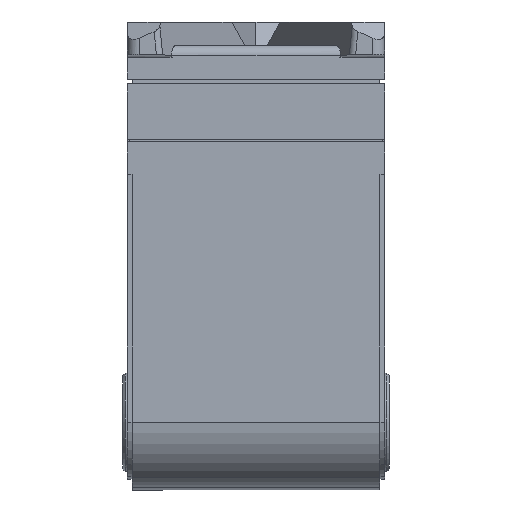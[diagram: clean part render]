
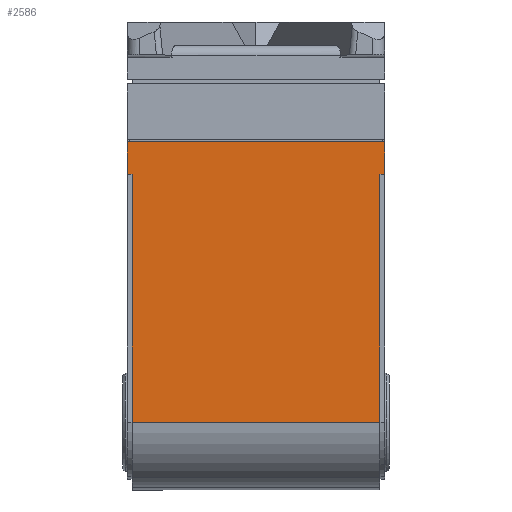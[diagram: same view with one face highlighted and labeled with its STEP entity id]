
A CAD part, front view. The second image highlights one B-rep face of the part: STEP entity #2586.
In plain terms, the highlighted planar face has unit normal (0, -1, 0).
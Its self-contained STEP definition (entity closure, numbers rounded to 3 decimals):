
#2586=ADVANCED_FACE('',(#3059),#2853,.F.);
#2853=PLANE('',#7668);
#3059=FACE_OUTER_BOUND('',#3341,.T.);
#3341=EDGE_LOOP('',(#4130,#4131,#4132,#4133,#4134,#4135,#4136,#4137));
#4130=ORIENTED_EDGE('',*,*,#5742,.T.);
#4131=ORIENTED_EDGE('',*,*,#5970,.F.);
#4132=ORIENTED_EDGE('',*,*,#5963,.T.);
#4133=ORIENTED_EDGE('',*,*,#5981,.T.);
#4134=ORIENTED_EDGE('',*,*,#5992,.F.);
#4135=ORIENTED_EDGE('',*,*,#5999,.F.);
#4136=ORIENTED_EDGE('',*,*,#6000,.F.);
#4137=ORIENTED_EDGE('',*,*,#6001,.F.);
#5212=VERTEX_POINT('',#9368);
#5213=VERTEX_POINT('',#9370);
#5367=VERTEX_POINT('',#10067);
#5368=VERTEX_POINT('',#10069);
#5380=VERTEX_POINT('',#10103);
#5387=VERTEX_POINT('',#10127);
#5389=VERTEX_POINT('',#10140);
#5390=VERTEX_POINT('',#10142);
#5742=EDGE_CURVE('',#5213,#5212,#6514,.T.);
#5963=EDGE_CURVE('',#5367,#5368,#6659,.T.);
#5970=EDGE_CURVE('',#5367,#5212,#6665,.T.);
#5981=EDGE_CURVE('',#5368,#5380,#6671,.T.);
#5992=EDGE_CURVE('',#5387,#5380,#6680,.T.);
#5999=EDGE_CURVE('',#5389,#5387,#6684,.T.);
#6000=EDGE_CURVE('',#5390,#5389,#6685,.T.);
#6001=EDGE_CURVE('',#5213,#5390,#6686,.T.);
#6514=LINE('',#9369,#7032);
#6659=LINE('',#10070,#7205);
#6665=LINE('',#10083,#7211);
#6671=LINE('',#10104,#7217);
#6680=LINE('',#10126,#7226);
#6684=LINE('',#10139,#7230);
#6685=LINE('',#10141,#7231);
#6686=LINE('',#10143,#7232);
#7032=VECTOR('',#8006,1.);
#7205=VECTOR('',#8307,1.);
#7211=VECTOR('',#8321,1.);
#7217=VECTOR('',#8339,1.);
#7226=VECTOR('',#8362,1.);
#7230=VECTOR('',#8380,1.);
#7231=VECTOR('',#8381,1.);
#7232=VECTOR('',#8382,1.);
#7668=AXIS2_PLACEMENT_3D('',#10144,#8383,#8384);
#8006=DIRECTION('',(-1.,0.,0.));
#8307=DIRECTION('',(1.,0.,0.));
#8321=DIRECTION('',(0.,0.,1.));
#8339=DIRECTION('',(0.,0.,-1.));
#8362=DIRECTION('',(-1.,0.,0.));
#8380=DIRECTION('',(0.,0.,-1.));
#8381=DIRECTION('',(-1.,0.,0.));
#8382=DIRECTION('',(0.,0.,-1.));
#8383=DIRECTION('',(0.,1.,0.));
#8384=DIRECTION('',(-1.,0.,0.));
#9368=CARTESIAN_POINT('',(-5.5,-16.4,16.65));
#9369=CARTESIAN_POINT('',(-0.1,-16.4,16.65));
#9370=CARTESIAN_POINT('',(5.5,-16.4,16.65));
#10067=CARTESIAN_POINT('',(-5.5,-16.4,15.25));
#10069=CARTESIAN_POINT('',(-5.3,-16.4,15.25));
#10070=CARTESIAN_POINT('',(-5.3,-16.4,15.25));
#10083=CARTESIAN_POINT('',(-5.5,-16.4,20.85));
#10103=CARTESIAN_POINT('',(-5.3,-16.4,4.65));
#10104=CARTESIAN_POINT('',(-5.3,-16.4,15.25));
#10126=CARTESIAN_POINT('',(6.05,-16.4,4.65));
#10127=CARTESIAN_POINT('',(5.3,-16.4,4.65));
#10139=CARTESIAN_POINT('',(5.3,-16.4,15.25));
#10140=CARTESIAN_POINT('',(5.3,-16.4,15.25));
#10141=CARTESIAN_POINT('',(5.3,-16.4,15.25));
#10142=CARTESIAN_POINT('',(5.5,-16.4,15.25));
#10143=CARTESIAN_POINT('',(5.5,-16.4,20.85));
#10144=CARTESIAN_POINT('',(-0.1,-16.4,2.35));
